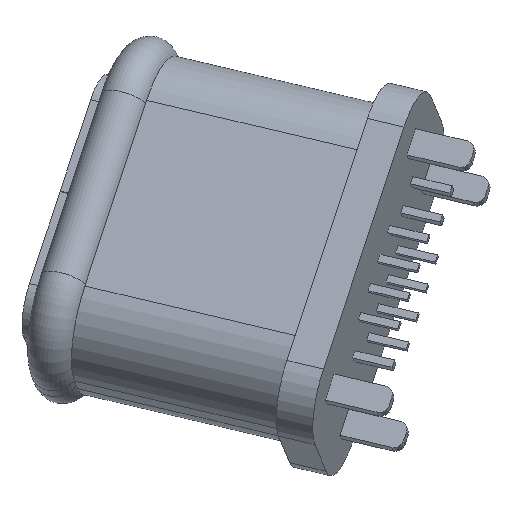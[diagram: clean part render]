
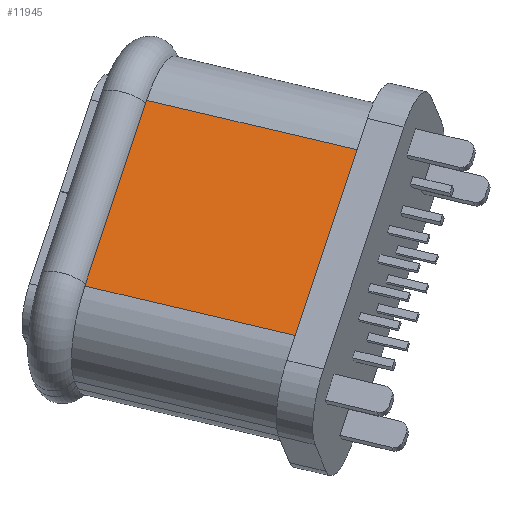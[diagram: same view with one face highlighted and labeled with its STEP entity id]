
A CAD part, isometric view. The second image highlights one B-rep face of the part: STEP entity #11945.
In plain terms, the highlighted planar face has unit normal (-0.482, -0.259, 0.837).
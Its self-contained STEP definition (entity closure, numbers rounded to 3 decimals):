
#4054=DIRECTION('',(0.428,-0.903,-0.033));
#4055=VECTOR('',#4054,7.);
#4056=CARTESIAN_POINT('',(1.758,9.45,-5.047));
#4057=LINE('',#4056,#4055);
#4058=DIRECTION('',(-0.764,-0.342,-0.546));
#4059=VECTOR('',#4058,6.4);
#4060=CARTESIAN_POINT('',(9.646,5.318,-1.781));
#4061=LINE('',#4060,#4059);
#4062=DIRECTION('',(0.764,0.342,0.546));
#4063=VECTOR('',#4062,6.4);
#4064=CARTESIAN_POINT('',(1.758,9.45,-5.047));
#4065=LINE('',#4064,#4063);
#4066=DIRECTION('',(-0.428,0.903,0.033));
#4067=VECTOR('',#4066,7.);
#4068=CARTESIAN_POINT('',(9.646,5.318,-1.781));
#4069=LINE('',#4068,#4067);
#6404=CARTESIAN_POINT('',(6.65,11.64,-1.549));
#6405=VERTEX_POINT('',#6404);
#6406=CARTESIAN_POINT('',(1.758,9.45,-5.047));
#6407=VERTEX_POINT('',#6406);
#6725=CARTESIAN_POINT('',(4.754,3.128,-5.279));
#6726=VERTEX_POINT('',#6725);
#6727=CARTESIAN_POINT('',(9.646,5.318,-1.781));
#6728=VERTEX_POINT('',#6727);
#11933=CARTESIAN_POINT('',(5.702,7.384,
-3.414));
#11934=DIRECTION('',(-0.482,-0.259,0.837));
#11935=DIRECTION('',(-0.428,0.903,0.033));
#11936=AXIS2_PLACEMENT_3D('',#11933,#11934,#11935);
#11937=PLANE('',#11936);
#11938=ORIENTED_EDGE('',*,*,#10371,.T.);
#11939=ORIENTED_EDGE('',*,*,#11928,.F.);
#11940=ORIENTED_EDGE('',*,*,#10296,.T.);
#11942=ORIENTED_EDGE('',*,*,#11941,.F.);
#11943=EDGE_LOOP('',(#11938,#11939,#11940,#11942));
#11944=FACE_OUTER_BOUND('',#11943,.F.);
#11945=ADVANCED_FACE('',(#11944),#11937,.T.);
#10296=EDGE_CURVE('',#6407,#6405,#4065,.T.);
#10371=EDGE_CURVE('',#6728,#6726,#4061,.T.);
#11928=EDGE_CURVE('',#6407,#6726,#4057,.T.);
#11941=EDGE_CURVE('',#6728,#6405,#4069,.T.);
